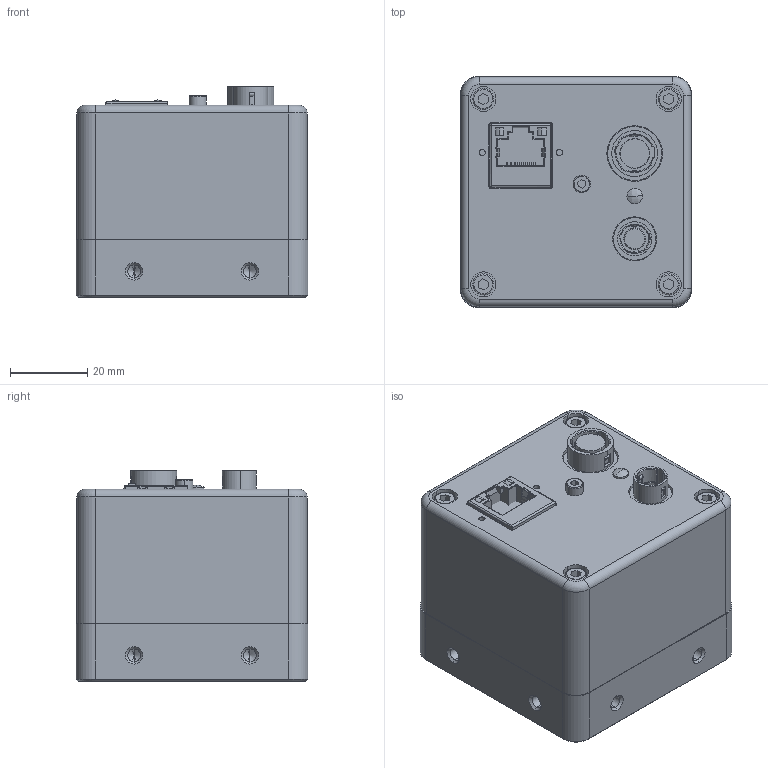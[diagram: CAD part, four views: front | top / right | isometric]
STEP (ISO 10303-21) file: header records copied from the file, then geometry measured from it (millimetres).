
FILE_DESCRIPTION (( 'STEP AP203' ), '1' );
FILE_NAME ('Cameleon.STEP', '2016-10-18T14:18:22', ( '' ), ( '' ), 'SwSTEP 2.0', 'SolidWorks 2015', '' );
FILE_SCHEMA (( 'CONFIG_CONTROL_DESIGN' ));
Length unit declared in the file: millimetre
Products named in the file (1): Cameleon
Bounding box: 60 x 60 x 54.52 mm (x, y, z)
Volume: 171333.8 mm3; surface area: 34435.2 mm2
Topology: 11 solids, 12 shells, 1400 faces, 3634 edges, 2304 vertices
Faces by surface type: plane 850, cylinder 415, cone 117, bspline 14, torus 4
Entity records: 42876 total; most frequent: CARTESIAN_POINT 8432, ORIENTED_EDGE 7236, DIRECTION 7086, EDGE_CURVE 3618, VECTOR 2398, LINE 2398, AXIS2_PLACEMENT_3D 2344, VERTEX_POINT 2304
